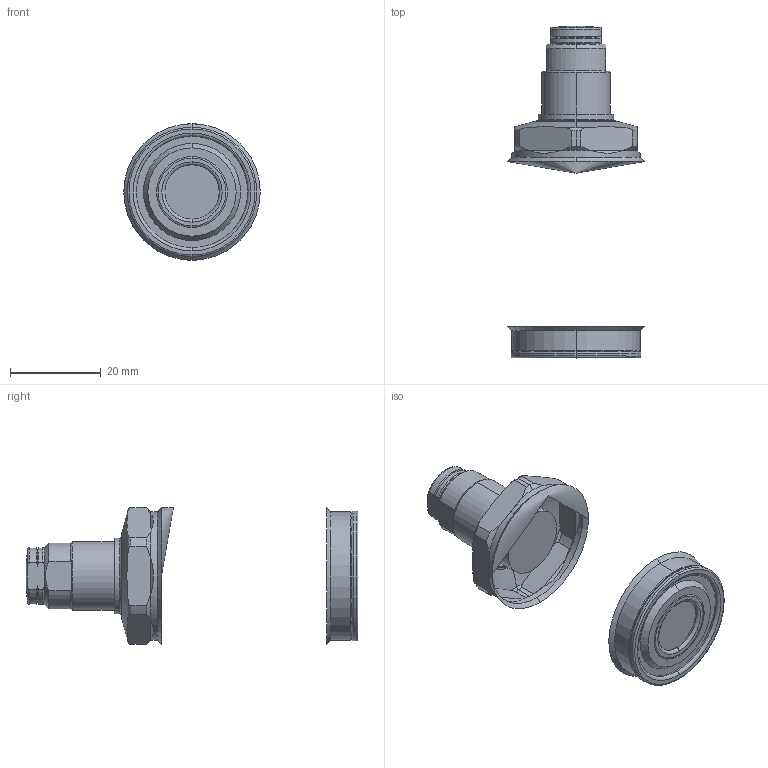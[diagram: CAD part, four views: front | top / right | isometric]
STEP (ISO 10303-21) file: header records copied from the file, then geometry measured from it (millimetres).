
FILE_DESCRIPTION(/* description */ (''),/* implementation_level */ '2;1');
FILE_NAME(/* name */ 'GSS03.stp',/* time_stamp */ '2025-01-05T13:21:36+08:00',/* author */ (''),/* organization */ (''),/* preprocessor_version */ 'ST-DEVELOPER v16.7',/* originating_system */ 'SIEMENS PLM Software NX 12.0',/* authorisation */ '');
FILE_SCHEMA (('AUTOMOTIVE_DESIGN { 1 0 10303 214 3 1 1 1 }'));
Length unit declared in the file: millimetre
Products named in the file (7): TNC0403_ContactBolt_M10; AS010; GSS03-04; GSS03-03; GSS03-02; GSS03-01; TNC0603-x-E_step
Assembly tree (6 placements, depth 3):
  TNC0603-x-E_step
    GSS03-01
      AS010
      TNC0403_ContactBolt_M10
    GSS03-02
    GSS03-03
    GSS03-04
Bounding box: 30 x 73 x 30 mm (x, y, z)
Volume: 7341.6 mm3; surface area: 6050.5 mm2
Topology: 5 solids, 6 shells, 164 faces, 364 edges, 220 vertices
Faces by surface type: cylinder 48, torus 45, plane 35, cone 34, sphere 2
Full cylindrical faces by diameter (mm): 28.2 x1, 30 x2
Entity records: 5077 total; most frequent: CARTESIAN_POINT 1189, DIRECTION 873, ORIENTED_EDGE 732, AXIS2_PLACEMENT_3D 389, EDGE_CURVE 366, VERTEX_POINT 223, CIRCLE 213, EDGE_LOOP 179
